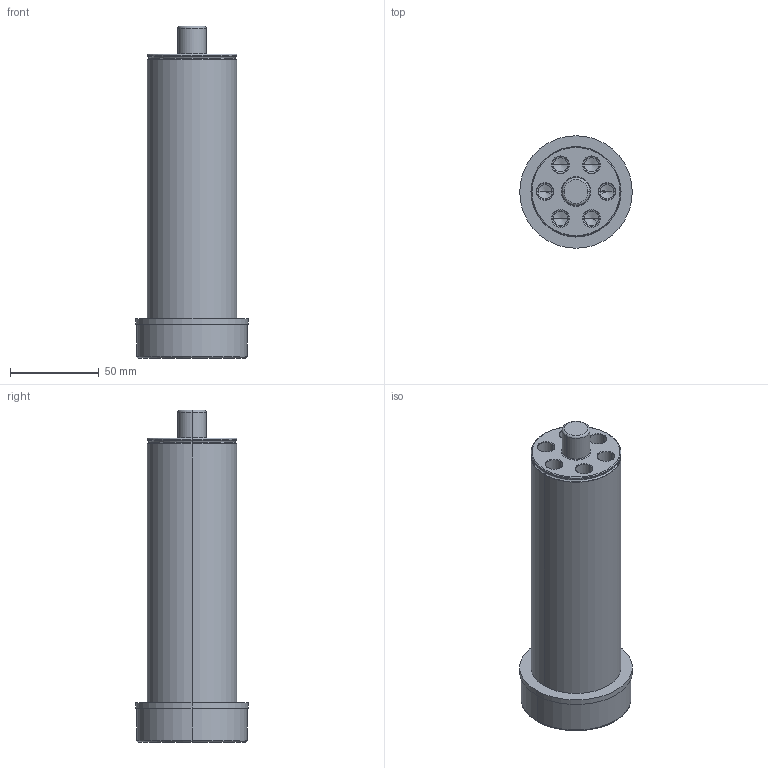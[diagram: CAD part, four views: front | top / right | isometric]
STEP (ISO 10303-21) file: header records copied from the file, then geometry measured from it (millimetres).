
FILE_DESCRIPTION (( 'STEP AP214' ), '1' );
FILE_NAME ('GK200-E-6-GuidePin.STEP', '2010-11-16T21:02:23', ( ' ' ), ( '' ), 'SwSTEP 2.0', 'SolidWorks 2010', '' );
FILE_SCHEMA (( 'AUTOMOTIVE_DESIGN' ));
Length unit declared in the file: inch
Products named in the file (1): GK200-E-6-GuidePin
Bounding box: 63.5 x 63.5 x 187.32 mm (x, y, z)
Volume: 360706 mm3; surface area: 43299.4 mm2
Topology: 2 solids, 2 shells, 96 faces, 202 edges, 106 vertices
Faces by surface type: cylinder 36, cone 36, torus 18, plane 6
Entity records: 2667 total; most frequent: DIRECTION 502, CARTESIAN_POINT 393, ORIENTED_EDGE 380, AXIS2_PLACEMENT_3D 215, EDGE_CURVE 190, CIRCLE 118, VERTEX_POINT 106, EDGE_LOOP 106
